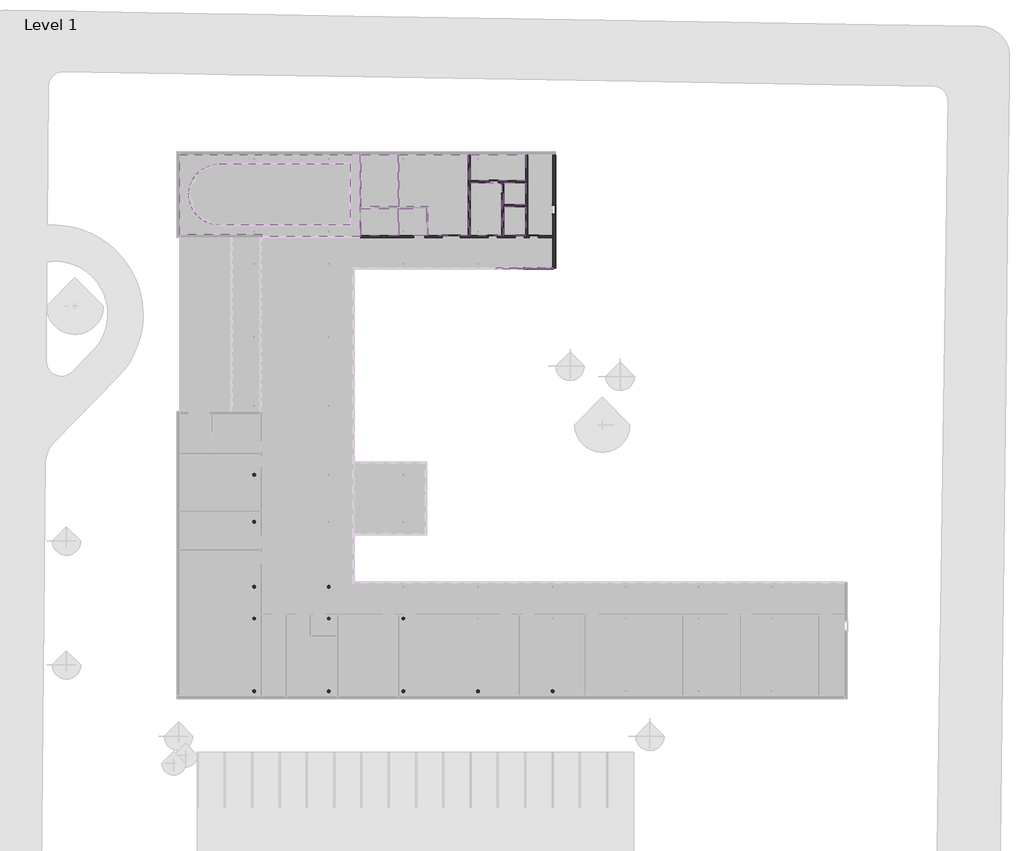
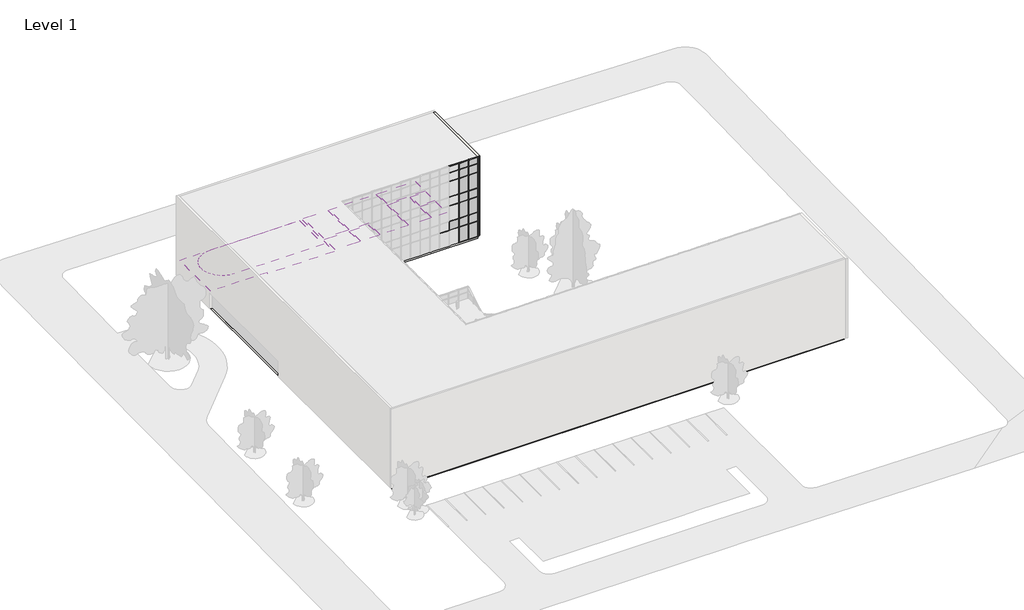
# One storey, part 17 of 18: 46 members, 15 plates, 12 columns, 10 coverings, 7 doors, 7 walls, 1 slab.
"""IFC4 building model written with IfcOpenShell, lengths in millimetres."""

from ifc_helpers import new_model, si_unit, point, frame, frame_2d, origin, origin_with_axes, place, context, project, spatial, polyline, circle_curve, trimmed, segment, composite_curve, outline, extrude, faceted_brep, transform, mapped, element, save
from components import m_concrete_round_column_300mm_df790aaa, door_0915mm_x_2134mm_2aa27b83, door_0915mm_x_2134mm_3fa07aa3, door_0915mm_x_2134mm_b19b82af, door_2_x_0915mm_x_2134mm_c74f849d, quad_corner_mullion_quad_mullion_1_893af7fe, quad_corner_mullion_quad_mullion_1_37ac55ff, quad_corner_mullion_quad_mullion_1_d5379b67, rectangular_mullion_50mm_x_150mm_5a36e067, rectangular_mullion_50mm_x_150mm_73e7bd4c, rectangular_mullion_50mm_x_150mm_4d4922e7, rectangular_mullion_50mm_x_150mm_da00b109, rectangular_mullion_50mm_x_150mm_bbc1c4ea, rectangular_mullion_50mm_x_150mm_36202a7c, rectangular_mullion_50mm_x_150mm_84717ec5, system_panel_glazed_6032f2be, system_panel_glazed_0db3b356, system_panel_glazed_cd6fe77c, system_panel_glazed_231014a1, system_panel_solid_c5c66014, system_panel_solid_87c6c2f1, system_panel_solid_b23a9ee6, system_panel_solid_e0f9033a

model = new_model("IFC4")

# Units and contexts
model_context = context("Model", 3, world=origin())
ifc_project = project(units=[si_unit("LENGTHUNIT", "METRE", prefix="MILLI")], contexts=[model_context])

# Site, building, storey
site = spatial("IfcSite", under=ifc_project)
building = spatial("IfcBuilding", under=site)
storey = spatial("IfcBuildingStorey", under=building, Name="Level 1", Elevation=0.0)

# Columns
placement = place(None, origin())
m_concrete_round_column_300mm_shape = m_concrete_round_column_300mm_df790aaa(model_context)
element("IfcColumn", 1, ObjectType="M_Concrete-Round-Column : 300mm", at=placement, inside=storey, context=model_context, shape_type="MappedRepresentation", body=[
    mapped(m_concrete_round_column_300mm_shape, transform((-2539.0909489, -1309.4607941, 0.0), x_axis=(-1.0, 0.0, 0.0), y_axis=(0.0, -1.0, 0.0), z_axis=(0.0, 0.0, 1.0))),
])
element("IfcColumn", 2, ObjectType="M_Concrete-Round-Column : 300mm", at=placement, inside=storey, context=model_context, shape_type="MappedRepresentation", body=[
    mapped(m_concrete_round_column_300mm_shape, transform((-2539.0909489, -6063.8611817, 0.0), x_axis=(-1.0, 0.0, 0.0), y_axis=(0.0, -1.0, 0.0), z_axis=(0.0, 0.0, 1.0))),
])
element("IfcColumn", 3, ObjectType="M_Concrete-Round-Column : 300mm", at=placement, inside=storey, context=model_context, shape_type="MappedRepresentation", body=[
    mapped(m_concrete_round_column_300mm_shape, transform((-2539.0909489, -15754.7006057, 0.0), x_axis=(-1.0, 0.0, 0.0), y_axis=(0.0, -1.0, 0.0), z_axis=(0.0, 0.0, 1.0))),
])
element("IfcColumn", 4, ObjectType="M_Concrete-Round-Column : 300mm", at=placement, inside=storey, context=model_context, shape_type="MappedRepresentation", body=[
    mapped(m_concrete_round_column_300mm_shape, transform((-2539.0909489, -12582.3615692, 0.0), x_axis=(-1.0, 0.0, 0.0), y_axis=(0.0, -1.0, 0.0), z_axis=(0.0, 0.0, 1.0))),
])
element("IfcColumn", 5, ObjectType="M_Concrete-Round-Column : 300mm", at=placement, inside=storey, context=model_context, shape_type="MappedRepresentation", body=[
    mapped(m_concrete_round_column_300mm_shape, transform((-2539.0909489, -23060.7006057, 0.0), x_axis=(-1.0, 0.0, 0.0), y_axis=(0.0, -1.0, 0.0), z_axis=(0.0, 0.0, 1.0))),
])
element("IfcColumn", 6, ObjectType="M_Concrete-Round-Column : 300mm", at=placement, inside=storey, context=model_context, shape_type="MappedRepresentation", body=[
    mapped(m_concrete_round_column_300mm_shape, transform((4948.6567657, -15754.7006057, 0.0), x_axis=(-1.0, 0.0, 0.0), y_axis=(0.0, -1.0, 0.0), z_axis=(0.0, 0.0, 1.0))),
])
element("IfcColumn", 7, ObjectType="M_Concrete-Round-Column : 300mm", at=placement, inside=storey, context=model_context, shape_type="MappedRepresentation", body=[
    mapped(m_concrete_round_column_300mm_shape, transform((4948.6567657, -12582.3615692, 0.0), x_axis=(-1.0, 0.0, 0.0), y_axis=(0.0, -1.0, 0.0), z_axis=(0.0, 0.0, 1.0))),
])
element("IfcColumn", 8, ObjectType="M_Concrete-Round-Column : 300mm", at=placement, inside=storey, context=model_context, shape_type="MappedRepresentation", body=[
    mapped(m_concrete_round_column_300mm_shape, transform((4948.6567657, -23060.7006057, 0.0), x_axis=(-1.0, 0.0, 0.0), y_axis=(0.0, -1.0, 0.0), z_axis=(0.0, 0.0, 1.0))),
])
element("IfcColumn", 9, ObjectType="M_Concrete-Round-Column : 300mm", at=placement, inside=storey, context=model_context, shape_type="MappedRepresentation", body=[
    mapped(m_concrete_round_column_300mm_shape, transform((12436.4044804, -15754.7006057, 0.0), x_axis=(-1.0, 0.0, 0.0), y_axis=(0.0, -1.0, 0.0), z_axis=(0.0, 0.0, 1.0))),
])
element("IfcColumn", 10, ObjectType="M_Concrete-Round-Column : 300mm", at=placement, inside=storey, context=model_context, shape_type="MappedRepresentation", body=[
    mapped(m_concrete_round_column_300mm_shape, transform((12436.4044804, -23060.7006057, 0.0), x_axis=(-1.0, 0.0, 0.0), y_axis=(0.0, -1.0, 0.0), z_axis=(0.0, 0.0, 1.0))),
])
element("IfcColumn", 11, ObjectType="M_Concrete-Round-Column : 300mm", at=placement, inside=storey, context=model_context, shape_type="MappedRepresentation", body=[
    mapped(m_concrete_round_column_300mm_shape, transform((19924.152195, -23060.7006057, 0.0), x_axis=(-1.0, 0.0, 0.0), y_axis=(0.0, -1.0, 0.0), z_axis=(0.0, 0.0, 1.0))),
])
element("IfcColumn", 12, ObjectType="M_Concrete-Round-Column : 300mm", at=placement, inside=storey, context=model_context, shape_type="MappedRepresentation", body=[
    mapped(m_concrete_round_column_300mm_shape, transform((27411.8999097, -23060.7006057, 0.0), x_axis=(-1.0, 0.0, 0.0), y_axis=(0.0, -1.0, 0.0), z_axis=(0.0, 0.0, 1.0))),
])

# Coverings
element("IfcCovering", 13, ObjectType="600 x 1200mm grid", at=placement, inside=storey, context=model_context, shape_type="SweptSolid", body=[
    extrude(outline(polyline([(8231.5010724, 30818.5799804), (11847.5010724, 30818.5799804), (11847.5010724, 25612.5799804), (8231.5010724, 25612.5799804), (8231.5010724, 30818.5799804)])), frame((0.0, 0.0, 2600.0), z_axis=(0.0, 0.0, 1.0), x_axis=(1.0, 0.0, 0.0)), (0.0, 0.0, 1.0), 52.0),
])
element("IfcCovering", 14, ObjectType="600 x 1200mm grid", at=placement, inside=storey, context=model_context, shape_type="SweptSolid", body=[
    extrude(outline(polyline([(11847.5010724, 25428.5799804), (11847.5010724, 22704.5799804), (8231.5010724, 22704.5799804), (8231.5010724, 25428.5799804), (11847.5010724, 25428.5799804)])), frame((0.0, 0.0, 2600.0), z_axis=(0.0, 0.0, 1.0), x_axis=(1.0, 0.0, 0.0)), (0.0, 0.0, 1.0), 52.0),
])
element("IfcCovering", 15, ObjectType="600 x 1200mm grid", at=placement, inside=storey, context=model_context, shape_type="SweptSolid", body=[
    extrude(outline(polyline([(14731.5010724, 25428.5799804), (14731.5010724, 22704.5799804), (12031.5010724, 22704.5799804), (12031.5010724, 25428.5799804), (14731.5010724, 25428.5799804)])), frame((0.0, 0.0, 2600.0), z_axis=(0.0, 0.0, 1.0), x_axis=(1.0, 0.0, 0.0)), (0.0, 0.0, 1.0), 52.0),
])
element("IfcCovering", 16, ObjectType="600 x 1200mm grid", at=placement, inside=storey, context=model_context, shape_type="SweptSolid", body=[
    extrude(outline(polyline([(24721.8999097, 22704.5799804), (22490.8999097, 22704.5799804), (22490.8999097, 25612.5799804), (24721.8999097, 25612.5799804), (24721.8999097, 22704.5799804)])), frame((0.0, 0.0, 2600.0), z_axis=(0.0, 0.0, 1.0), x_axis=(1.0, 0.0, 0.0)), (0.0, 0.0, 1.0), 52.0),
])
element("IfcCovering", 17, ObjectType="600 x 600mm grid", at=placement, inside=storey, context=model_context, shape_type="SweptSolid", body=[
    extrude(outline(polyline([(12031.5010724, 30818.5799804), (18947.5010724, 30818.5799804), (18947.5010724, 22704.5799804), (14915.5010724, 22704.5799804), (14915.5010724, 25612.5799804), (12031.5010724, 25612.5799804), (12031.5010724, 30818.5799804)])), frame((0.0, 0.0, 2600.0), z_axis=(0.0, 0.0, 1.0), x_axis=(1.0, 0.0, 0.0)), (0.0, 0.0, 1.0), 52.0),
])
element("IfcCovering", 18, ObjectType="600 x 600mm grid", at=placement, inside=storey, context=model_context, shape_type="SweptSolid", body=[
    extrude(outline(polyline([(22306.8999097, 22704.5799804), (19131.5010724, 22704.5799804), (19131.5010724, 28036.5799804), (22306.8999097, 28036.5799804), (22306.8999097, 22704.5799804)])), frame((0.0, 0.0, 2600.0), z_axis=(0.0, 0.0, 1.0), x_axis=(1.0, 0.0, 0.0)), (0.0, 0.0, 1.0), 52.0),
])
element("IfcCovering", 19, ObjectType="600 x 600mm grid", at=placement, inside=storey, context=model_context, shape_type="SweptSolid", body=[
    extrude(outline(polyline([(24721.8999097, 28036.5799804), (24721.8999097, 25796.5799804), (22490.8999097, 25796.5799804), (22490.8999097, 28036.5799804), (24721.8999097, 28036.5799804)])), frame((0.0, 0.0, 2600.0), z_axis=(0.0, 0.0, 1.0), x_axis=(1.0, 0.0, 0.0)), (0.0, 0.0, 1.0), 52.0),
])
element("IfcCovering", 20, ObjectType="600 x 600mm grid", at=placement, inside=storey, context=model_context, shape_type="SweptSolid", body=[
    extrude(outline(composite_curve([segment(polyline([(-6028.8386635, 29898.5799804), (7127.5010724, 29898.5799804), (7127.5010724, 23742.5799804), (-6028.8386635, 23742.5799804)]), True, "CONTINUOUS"), segment(trimmed(circle_curve(frame_2d((-6028.8386635, 26820.5799804)), 3078.0), [point((-6028.8386635, 23742.5799804))], [point((-6028.8386635, 29898.5799804))], False, "CARTESIAN"), True, "CONTINUOUS")], self_intersect=False)), frame((0.0, 0.0, 3200.0), z_axis=(0.0, 0.0, 1.0), x_axis=(1.0, 0.0, 0.0)), (0.0, 0.0, 1.0), 52.0),
])
element("IfcCovering", 21, ObjectType="GWB on Mtl Stud", at=placement, inside=storey, context=model_context, shape_type="SweptSolid", body=[
    extrude(outline(polyline([(19131.5010724, 30818.5799804), (24721.8999097, 30818.5799804), (24721.8999097, 28220.5799804), (19131.5010724, 28220.5799804), (19131.5010724, 30818.5799804)])), frame((0.0, 0.0, 2600.0), z_axis=(0.0, 0.0, 1.0), x_axis=(1.0, 0.0, 0.0)), (0.0, 0.0, 1.0), 57.0),
])
element("IfcCovering", 22, ObjectType="GWB on Mtl Stud", at=placement, inside=storey, context=model_context, shape_type="SweptSolid", body=[
    extrude(outline(polyline([(-10026.8386635, 22822.5799804), (-10026.8386635, 30818.5799804), (8047.5010724, 30818.5799804), (8047.5010724, 22595.5799804), (-1728.8386635, 22595.5799804), (-1728.8386635, 22822.5799804), (-10026.8386635, 22822.5799804)]), holes=[composite_curve([segment(trimmed(circle_curve(frame_2d((-6028.8386635, 26820.5799804)), 2778.0), [point((-6028.8386635, 29598.5799804))], [point((-6028.8386635, 24042.5799804))], True, "CARTESIAN"), True, "CONTINUOUS"), segment(polyline([(-6028.8386635, 24042.5799804), (6827.5010724, 24042.5799804), (6827.5010724, 29598.5799804), (-6028.8386635, 29598.5799804)]), True, "CONTINUOUS")], self_intersect=False)]), frame((0.0, 0.0, 2440.0), z_axis=(0.0, 0.0, 1.0), x_axis=(1.0, 0.0, 0.0)), (0.0, 0.0, 1.0), 57.0),
])

# Doors
door_0915mm_x_2134mm_shape = door_0915mm_x_2134mm_2aa27b83(model_context)
element("IfcDoor", 23, ObjectType="m-doors-hm-f1-a : 0915mm x 2134mm", at=placement, inside=storey, context=model_context, shape_type="MappedRepresentation", body=[
    mapped(door_0915mm_x_2134mm_shape, transform((22573.8999097, 27428.5799804, 0.0), x_axis=(0.0, -1.0, 0.0), y_axis=(1.0, 0.0, 0.0), z_axis=(0.0, 0.0, 1.0))),
])
element("IfcDoor", 24, ObjectType="m-doors-hm-f1-a : 0915mm x 2134mm", at=placement, inside=storey, context=model_context, shape_type="MappedRepresentation", body=[
    mapped(door_0915mm_x_2134mm_shape, transform((21498.8999097, 28303.5799804, 0.0), x_axis=(1.0, 0.0, 0.0), y_axis=(0.0, 1.0, 0.0), z_axis=(0.0, 0.0, 1.0))),
])
element("IfcDoor", 25, ObjectType="m-doors-hm-f1-a : 0915mm x 2134mm", at=placement, inside=storey, context=model_context, shape_type="MappedRepresentation", body=[
    mapped(door_0915mm_x_2134mm_shape, transform((25516.8999097, 22787.5799804, 0.0), x_axis=(1.0, 0.0, 0.0), y_axis=(0.0, 1.0, 0.0), z_axis=(0.0, 0.0, 1.0))),
])
door_0915mm_x_2134mm_2_shape = door_0915mm_x_2134mm_3fa07aa3(model_context)
element("IfcDoor", 26, ObjectType="m-doors-hm-f1-a : 0915mm x 2134mm", at=placement, inside=storey, context=model_context, shape_type="MappedRepresentation", body=[
    mapped(door_0915mm_x_2134mm_2_shape, transform((21398.8999097, 22787.5799804, 0.0), x_axis=(-1.0, 0.0, 0.0), y_axis=(0.0, -1.0, 0.0), z_axis=(0.0, 0.0, 1.0))),
])
element("IfcDoor", 27, ObjectType="m-doors-hm-f1-a : 0915mm x 2134mm", at=placement, inside=storey, context=model_context, shape_type="MappedRepresentation", body=[
    mapped(door_0915mm_x_2134mm_2_shape, transform((24106.8999097, 22787.5799804, 0.0), x_axis=(-1.0, 0.0, 0.0), y_axis=(0.0, -1.0, 0.0), z_axis=(0.0, 0.0, 1.0))),
])
door_0915mm_x_2134mm_3_shape = door_0915mm_x_2134mm_b19b82af(model_context)
element("IfcDoor", 28, ObjectType="m-doors-hm-f1-a : 0915mm x 2134mm", at=placement, inside=storey, context=model_context, shape_type="MappedRepresentation", body=[
    mapped(door_0915mm_x_2134mm_3_shape, transform((27737.8999097, 25312.5799804, 0.0), x_axis=(0.0, -1.0, 0.0), y_axis=(1.0, 0.0, 0.0), z_axis=(0.0, 0.0, 1.0))),
])
door_2_x_0915mm_x_2134mm_shape = door_2_x_0915mm_x_2134mm_c74f849d(model_context)
element("IfcDoor", 29, ObjectType="m-doors-hm-f2-a : 2 x 0915mm x 2134mm", at=placement, inside=storey, context=model_context, shape_type="MappedRepresentation", body=[
    mapped(door_2_x_0915mm_x_2134mm_shape, transform((17239.5010724, 22787.5799804, 0.0), x_axis=(1.0, 0.0, 0.0), y_axis=(0.0, 1.0, 0.0), z_axis=(0.0, 0.0, 1.0))),
])

# Members
quad_corner_mullion_quad_mullion_1_shape = quad_corner_mullion_quad_mullion_1_893af7fe(model_context)
element("IfcMember", 30, ObjectType="Quad Corner Mullion : Quad Mullion 1", at=placement, inside=storey, context=model_context, shape_type="MappedRepresentation", body=[
    mapped(quad_corner_mullion_quad_mullion_1_shape, transform((27411.8999097, 19414.8392059, 11400.0), x_axis=(1.0, 0.0, 0.0), y_axis=(0.0, -1.0, 0.0), z_axis=(0.0, 0.0, -1.0))),
])
quad_corner_mullion_quad_mullion_1_2_shape = quad_corner_mullion_quad_mullion_1_37ac55ff(model_context)
element("IfcMember", 31, ObjectType="Quad Corner Mullion : Quad Mullion 1", at=placement, inside=storey, context=model_context, shape_type="MappedRepresentation", body=[
    mapped(quad_corner_mullion_quad_mullion_1_2_shape, transform((27411.8999097, 19414.8392059, 3800.0), x_axis=(1.0, 0.0, 0.0), y_axis=(0.0, -1.0, 0.0), z_axis=(0.0, 0.0, -1.0))),
])
element("IfcMember", 32, ObjectType="Quad Corner Mullion : Quad Mullion 1", at=placement, inside=storey, context=model_context, shape_type="MappedRepresentation", body=[
    mapped(quad_corner_mullion_quad_mullion_1_2_shape, transform((27411.8999097, 19414.8392059, 7600.0), x_axis=(1.0, 0.0, 0.0), y_axis=(0.0, -1.0, 0.0), z_axis=(0.0, 0.0, -1.0))),
])
quad_corner_mullion_quad_mullion_1_3_shape = quad_corner_mullion_quad_mullion_1_d5379b67(model_context)
element("IfcMember", 33, ObjectType="Quad Corner Mullion : Quad Mullion 1", at=placement, inside=storey, context=model_context, shape_type="MappedRepresentation", body=[
    mapped(quad_corner_mullion_quad_mullion_1_3_shape, transform((27411.8999097, 19414.8392059, 10040.0), x_axis=(1.0, 0.0, 0.0), y_axis=(0.0, -1.0, 0.0), z_axis=(0.0, 0.0, -1.0))),
])
element("IfcMember", 34, ObjectType="Quad Corner Mullion : Quad Mullion 1", at=placement, inside=storey, context=model_context, shape_type="MappedRepresentation", body=[
    mapped(quad_corner_mullion_quad_mullion_1_3_shape, transform((27411.8999097, 19414.8392059, 6240.0), x_axis=(1.0, 0.0, 0.0), y_axis=(0.0, -1.0, 0.0), z_axis=(0.0, 0.0, -1.0))),
])
element("IfcMember", 35, ObjectType="Quad Corner Mullion : Quad Mullion 1", at=placement, inside=storey, context=model_context, shape_type="MappedRepresentation", body=[
    mapped(quad_corner_mullion_quad_mullion_1_3_shape, transform((27411.8999097, 19414.8392059, 2440.0), x_axis=(1.0, 0.0, 0.0), y_axis=(0.0, -1.0, 0.0), z_axis=(0.0, 0.0, -1.0))),
])
element("IfcMember", 36, ObjectType="Quad Corner Mullion : Quad Mullion 1", at=placement, inside=storey, context=model_context, shape_type="MappedRepresentation", body=[
    mapped(quad_corner_mullion_quad_mullion_1_2_shape, transform((27411.8999097, 19414.8392059, 0.0), x_axis=(1.0, 0.0, 0.0), y_axis=(0.0, -1.0, 0.0), z_axis=(0.0, 0.0, -1.0))),
])
rectangular_mullion_50mm_x_150mm_shape = rectangular_mullion_50mm_x_150mm_5a36e067(model_context)
element("IfcMember", 37, ObjectType="Rectangular Mullion : 50mm x 150mm", at=placement, inside=storey, context=model_context, shape_type="MappedRepresentation", body=[
    mapped(rectangular_mullion_50mm_x_150mm_shape, transform((24534.8429327, 19414.8392059, 12400.0), x_axis=(0.0, 0.0, 1.0), y_axis=(0.0, -1.0, 0.0), z_axis=(1.0, 0.0, 0.0))),
])
element("IfcMember", 38, ObjectType="Rectangular Mullion : 50mm x 150mm", at=placement, inside=storey, context=model_context, shape_type="MappedRepresentation", body=[
    mapped(rectangular_mullion_50mm_x_150mm_shape, transform((25960.871421, 19414.8392059, 12400.0), x_axis=(0.0, 0.0, 1.0), y_axis=(0.0, -1.0, 0.0), z_axis=(1.0, 0.0, 0.0))),
])
element("IfcMember", 39, ObjectType="Rectangular Mullion : 50mm x 150mm", at=placement, inside=storey, context=model_context, shape_type="MappedRepresentation", body=[
    mapped(rectangular_mullion_50mm_x_150mm_shape, transform((24584.8429327, 19414.8392059, 0.0), x_axis=(0.0, 0.0, -1.0), y_axis=(0.0, -1.0, 0.0), z_axis=(-1.0, 0.0, 0.0))),
])
rectangular_mullion_50mm_x_150mm_2_shape = rectangular_mullion_50mm_x_150mm_73e7bd4c(model_context)
element("IfcMember", 40, ObjectType="Rectangular Mullion : 50mm x 150mm", at=placement, inside=storey, context=model_context, shape_type="MappedRepresentation", body=[
    mapped(rectangular_mullion_50mm_x_150mm_2_shape, transform((24534.8429327, 19414.8392059, 3800.0), x_axis=(0.0, 0.0, 1.0), y_axis=(0.0, -1.0, 0.0), z_axis=(1.0, 0.0, 0.0))),
])
element("IfcMember", 41, ObjectType="Rectangular Mullion : 50mm x 150mm", at=placement, inside=storey, context=model_context, shape_type="MappedRepresentation", body=[
    mapped(rectangular_mullion_50mm_x_150mm_2_shape, transform((25960.871421, 19414.8392059, 3800.0), x_axis=(0.0, 0.0, 1.0), y_axis=(0.0, -1.0, 0.0), z_axis=(1.0, 0.0, 0.0))),
])
element("IfcMember", 42, ObjectType="Rectangular Mullion : 50mm x 150mm", at=placement, inside=storey, context=model_context, shape_type="MappedRepresentation", body=[
    mapped(rectangular_mullion_50mm_x_150mm_2_shape, transform((24534.8429327, 19414.8392059, 7600.0), x_axis=(0.0, 0.0, 1.0), y_axis=(0.0, -1.0, 0.0), z_axis=(1.0, 0.0, 0.0))),
])
element("IfcMember", 43, ObjectType="Rectangular Mullion : 50mm x 150mm", at=placement, inside=storey, context=model_context, shape_type="MappedRepresentation", body=[
    mapped(rectangular_mullion_50mm_x_150mm_2_shape, transform((25960.871421, 19414.8392059, 7600.0), x_axis=(0.0, 0.0, 1.0), y_axis=(0.0, -1.0, 0.0), z_axis=(1.0, 0.0, 0.0))),
])
element("IfcMember", 44, ObjectType="Rectangular Mullion : 50mm x 150mm", at=placement, inside=storey, context=model_context, shape_type="MappedRepresentation", body=[
    mapped(rectangular_mullion_50mm_x_150mm_2_shape, transform((24534.8429327, 19414.8392059, 11400.0), x_axis=(0.0, 0.0, 1.0), y_axis=(0.0, -1.0, 0.0), z_axis=(1.0, 0.0, 0.0))),
])
element("IfcMember", 45, ObjectType="Rectangular Mullion : 50mm x 150mm", at=placement, inside=storey, context=model_context, shape_type="MappedRepresentation", body=[
    mapped(rectangular_mullion_50mm_x_150mm_2_shape, transform((25960.871421, 19414.8392059, 11400.0), x_axis=(0.0, 0.0, 1.0), y_axis=(0.0, -1.0, 0.0), z_axis=(1.0, 0.0, 0.0))),
])
element("IfcMember", 46, ObjectType="Rectangular Mullion : 50mm x 150mm", at=placement, inside=storey, context=model_context, shape_type="MappedRepresentation", body=[
    mapped(rectangular_mullion_50mm_x_150mm_2_shape, transform((24534.8429327, 19414.8392059, 10040.0), x_axis=(0.0, 0.0, 1.0), y_axis=(0.0, -1.0, 0.0), z_axis=(1.0, 0.0, 0.0))),
])
element("IfcMember", 47, ObjectType="Rectangular Mullion : 50mm x 150mm", at=placement, inside=storey, context=model_context, shape_type="MappedRepresentation", body=[
    mapped(rectangular_mullion_50mm_x_150mm_2_shape, transform((25960.871421, 19414.8392059, 10040.0), x_axis=(0.0, 0.0, 1.0), y_axis=(0.0, -1.0, 0.0), z_axis=(1.0, 0.0, 0.0))),
])
element("IfcMember", 48, ObjectType="Rectangular Mullion : 50mm x 150mm", at=placement, inside=storey, context=model_context, shape_type="MappedRepresentation", body=[
    mapped(rectangular_mullion_50mm_x_150mm_2_shape, transform((24534.8429327, 19414.8392059, 6240.0), x_axis=(0.0, 0.0, 1.0), y_axis=(0.0, -1.0, 0.0), z_axis=(1.0, 0.0, 0.0))),
])
element("IfcMember", 49, ObjectType="Rectangular Mullion : 50mm x 150mm", at=placement, inside=storey, context=model_context, shape_type="MappedRepresentation", body=[
    mapped(rectangular_mullion_50mm_x_150mm_2_shape, transform((25960.871421, 19414.8392059, 6240.0), x_axis=(0.0, 0.0, 1.0), y_axis=(0.0, -1.0, 0.0), z_axis=(1.0, 0.0, 0.0))),
])
element("IfcMember", 50, ObjectType="Rectangular Mullion : 50mm x 150mm", at=placement, inside=storey, context=model_context, shape_type="MappedRepresentation", body=[
    mapped(rectangular_mullion_50mm_x_150mm_2_shape, transform((23108.8144443, 19414.8392059, 2440.0), x_axis=(0.0, 0.0, 1.0), y_axis=(0.0, -1.0, 0.0), z_axis=(1.0, 0.0, 0.0))),
])
element("IfcMember", 51, ObjectType="Rectangular Mullion : 50mm x 150mm", at=placement, inside=storey, context=model_context, shape_type="MappedRepresentation", body=[
    mapped(rectangular_mullion_50mm_x_150mm_2_shape, transform((24534.8429327, 19414.8392059, 2440.0), x_axis=(0.0, 0.0, 1.0), y_axis=(0.0, -1.0, 0.0), z_axis=(1.0, 0.0, 0.0))),
])
element("IfcMember", 52, ObjectType="Rectangular Mullion : 50mm x 150mm", at=placement, inside=storey, context=model_context, shape_type="MappedRepresentation", body=[
    mapped(rectangular_mullion_50mm_x_150mm_2_shape, transform((25960.871421, 19414.8392059, 2440.0), x_axis=(0.0, 0.0, 1.0), y_axis=(0.0, -1.0, 0.0), z_axis=(1.0, 0.0, 0.0))),
])
rectangular_mullion_50mm_x_150mm_3_shape = rectangular_mullion_50mm_x_150mm_4d4922e7(model_context)
element("IfcMember", 53, ObjectType="Rectangular Mullion : 50mm x 150mm", at=placement, inside=storey, context=model_context, shape_type="MappedRepresentation", body=[
    mapped(rectangular_mullion_50mm_x_150mm_3_shape, transform((27336.8999097, 19414.8392059, 12400.0), x_axis=(0.0, 0.0, 1.0), y_axis=(0.0, -1.0, 0.0), z_axis=(1.0, 0.0, 0.0))),
])
element("IfcMember", 54, ObjectType="Rectangular Mullion : 50mm x 150mm", at=placement, inside=storey, context=model_context, shape_type="MappedRepresentation", body=[
    mapped(rectangular_mullion_50mm_x_150mm_3_shape, transform((26010.871421, 19414.8392059, 0.0), x_axis=(0.0, 0.0, -1.0), y_axis=(0.0, -1.0, 0.0), z_axis=(-1.0, 0.0, 0.0))),
])
rectangular_mullion_50mm_x_150mm_4_shape = rectangular_mullion_50mm_x_150mm_da00b109(model_context)
element("IfcMember", 55, ObjectType="Rectangular Mullion : 50mm x 150mm", at=placement, inside=storey, context=model_context, shape_type="MappedRepresentation", body=[
    mapped(rectangular_mullion_50mm_x_150mm_4_shape, transform((27336.8999097, 19414.8392059, 3800.0), x_axis=(0.0, 0.0, 1.0), y_axis=(0.0, -1.0, 0.0), z_axis=(1.0, 0.0, 0.0))),
])
element("IfcMember", 56, ObjectType="Rectangular Mullion : 50mm x 150mm", at=placement, inside=storey, context=model_context, shape_type="MappedRepresentation", body=[
    mapped(rectangular_mullion_50mm_x_150mm_4_shape, transform((27336.8999097, 19414.8392059, 7600.0), x_axis=(0.0, 0.0, 1.0), y_axis=(0.0, -1.0, 0.0), z_axis=(1.0, 0.0, 0.0))),
])
element("IfcMember", 57, ObjectType="Rectangular Mullion : 50mm x 150mm", at=placement, inside=storey, context=model_context, shape_type="MappedRepresentation", body=[
    mapped(rectangular_mullion_50mm_x_150mm_4_shape, transform((27336.8999097, 19414.8392059, 11400.0), x_axis=(0.0, 0.0, 1.0), y_axis=(0.0, -1.0, 0.0), z_axis=(1.0, 0.0, 0.0))),
])
element("IfcMember", 58, ObjectType="Rectangular Mullion : 50mm x 150mm", at=placement, inside=storey, context=model_context, shape_type="MappedRepresentation", body=[
    mapped(rectangular_mullion_50mm_x_150mm_4_shape, transform((27336.8999097, 19414.8392059, 10040.0), x_axis=(0.0, 0.0, 1.0), y_axis=(0.0, -1.0, 0.0), z_axis=(1.0, 0.0, 0.0))),
])
element("IfcMember", 59, ObjectType="Rectangular Mullion : 50mm x 150mm", at=placement, inside=storey, context=model_context, shape_type="MappedRepresentation", body=[
    mapped(rectangular_mullion_50mm_x_150mm_4_shape, transform((27336.8999097, 19414.8392059, 6240.0), x_axis=(0.0, 0.0, 1.0), y_axis=(0.0, -1.0, 0.0), z_axis=(1.0, 0.0, 0.0))),
])
element("IfcMember", 60, ObjectType="Rectangular Mullion : 50mm x 150mm", at=placement, inside=storey, context=model_context, shape_type="MappedRepresentation", body=[
    mapped(rectangular_mullion_50mm_x_150mm_4_shape, transform((27336.8999097, 19414.8392059, 2440.0), x_axis=(0.0, 0.0, 1.0), y_axis=(0.0, -1.0, 0.0), z_axis=(1.0, 0.0, 0.0))),
])
rectangular_mullion_50mm_x_150mm_5_shape = rectangular_mullion_50mm_x_150mm_bbc1c4ea(model_context)
element("IfcMember", 61, ObjectType="Rectangular Mullion : 50mm x 150mm", at=placement, inside=storey, context=model_context, shape_type="MappedRepresentation", body=[
    mapped(rectangular_mullion_50mm_x_150mm_5_shape, transform((24559.8429327, 19414.8392059, 11400.0), x_axis=(1.0, 0.0, 0.0), y_axis=(0.0, -1.0, 0.0), z_axis=(0.0, 0.0, -1.0))),
])
element("IfcMember", 62, ObjectType="Rectangular Mullion : 50mm x 150mm", at=placement, inside=storey, context=model_context, shape_type="MappedRepresentation", body=[
    mapped(rectangular_mullion_50mm_x_150mm_5_shape, transform((25985.871421, 19414.8392059, 11400.0), x_axis=(1.0, 0.0, 0.0), y_axis=(0.0, -1.0, 0.0), z_axis=(0.0, 0.0, -1.0))),
])
rectangular_mullion_50mm_x_150mm_6_shape = rectangular_mullion_50mm_x_150mm_36202a7c(model_context)
element("IfcMember", 63, ObjectType="Rectangular Mullion : 50mm x 150mm", at=placement, inside=storey, context=model_context, shape_type="MappedRepresentation", body=[
    mapped(rectangular_mullion_50mm_x_150mm_6_shape, transform((24559.8429327, 19414.8392059, 0.0), x_axis=(1.0, 0.0, 0.0), y_axis=(0.0, -1.0, 0.0), z_axis=(0.0, 0.0, -1.0))),
])
element("IfcMember", 64, ObjectType="Rectangular Mullion : 50mm x 150mm", at=placement, inside=storey, context=model_context, shape_type="MappedRepresentation", body=[
    mapped(rectangular_mullion_50mm_x_150mm_6_shape, transform((25985.871421, 19414.8392059, 0.0), x_axis=(1.0, 0.0, 0.0), y_axis=(0.0, -1.0, 0.0), z_axis=(0.0, 0.0, -1.0))),
])
rectangular_mullion_50mm_x_150mm_7_shape = rectangular_mullion_50mm_x_150mm_84717ec5(model_context)
element("IfcMember", 65, ObjectType="Rectangular Mullion : 50mm x 150mm", at=placement, inside=storey, context=model_context, shape_type="MappedRepresentation", body=[
    mapped(rectangular_mullion_50mm_x_150mm_7_shape, transform((24559.8429327, 19414.8392059, 10040.0), x_axis=(1.0, 0.0, 0.0), y_axis=(0.0, -1.0, 0.0), z_axis=(0.0, 0.0, -1.0))),
])
element("IfcMember", 66, ObjectType="Rectangular Mullion : 50mm x 150mm", at=placement, inside=storey, context=model_context, shape_type="MappedRepresentation", body=[
    mapped(rectangular_mullion_50mm_x_150mm_7_shape, transform((25985.871421, 19414.8392059, 10040.0), x_axis=(1.0, 0.0, 0.0), y_axis=(0.0, -1.0, 0.0), z_axis=(0.0, 0.0, -1.0))),
])
element("IfcMember", 67, ObjectType="Rectangular Mullion : 50mm x 150mm", at=placement, inside=storey, context=model_context, shape_type="MappedRepresentation", body=[
    mapped(rectangular_mullion_50mm_x_150mm_7_shape, transform((24559.8429327, 19414.8392059, 6240.0), x_axis=(1.0, 0.0, 0.0), y_axis=(0.0, -1.0, 0.0), z_axis=(0.0, 0.0, -1.0))),
])
element("IfcMember", 68, ObjectType="Rectangular Mullion : 50mm x 150mm", at=placement, inside=storey, context=model_context, shape_type="MappedRepresentation", body=[
    mapped(rectangular_mullion_50mm_x_150mm_7_shape, transform((25985.871421, 19414.8392059, 6240.0), x_axis=(1.0, 0.0, 0.0), y_axis=(0.0, -1.0, 0.0), z_axis=(0.0, 0.0, -1.0))),
])
element("IfcMember", 69, ObjectType="Rectangular Mullion : 50mm x 150mm", at=placement, inside=storey, context=model_context, shape_type="MappedRepresentation", body=[
    mapped(rectangular_mullion_50mm_x_150mm_7_shape, transform((23133.8144443, 19414.8392059, 2440.0), x_axis=(1.0, 0.0, 0.0), y_axis=(0.0, -1.0, 0.0), z_axis=(0.0, 0.0, -1.0))),
])
element("IfcMember", 70, ObjectType="Rectangular Mullion : 50mm x 150mm", at=placement, inside=storey, context=model_context, shape_type="MappedRepresentation", body=[
    mapped(rectangular_mullion_50mm_x_150mm_7_shape, transform((24559.8429327, 19414.8392059, 2440.0), x_axis=(1.0, 0.0, 0.0), y_axis=(0.0, -1.0, 0.0), z_axis=(0.0, 0.0, -1.0))),
])
element("IfcMember", 71, ObjectType="Rectangular Mullion : 50mm x 150mm", at=placement, inside=storey, context=model_context, shape_type="MappedRepresentation", body=[
    mapped(rectangular_mullion_50mm_x_150mm_7_shape, transform((25985.871421, 19414.8392059, 2440.0), x_axis=(1.0, 0.0, 0.0), y_axis=(0.0, -1.0, 0.0), z_axis=(0.0, 0.0, -1.0))),
])
element("IfcMember", 72, ObjectType="Rectangular Mullion : 50mm x 150mm", at=placement, inside=storey, context=model_context, shape_type="MappedRepresentation", body=[
    mapped(rectangular_mullion_50mm_x_150mm_6_shape, transform((24559.8429327, 19414.8392059, 3800.0), x_axis=(1.0, 0.0, 0.0), y_axis=(0.0, -1.0, 0.0), z_axis=(0.0, 0.0, -1.0))),
])
element("IfcMember", 73, ObjectType="Rectangular Mullion : 50mm x 150mm", at=placement, inside=storey, context=model_context, shape_type="MappedRepresentation", body=[
    mapped(rectangular_mullion_50mm_x_150mm_6_shape, transform((25985.871421, 19414.8392059, 3800.0), x_axis=(1.0, 0.0, 0.0), y_axis=(0.0, -1.0, 0.0), z_axis=(0.0, 0.0, -1.0))),
])
element("IfcMember", 74, ObjectType="Rectangular Mullion : 50mm x 150mm", at=placement, inside=storey, context=model_context, shape_type="MappedRepresentation", body=[
    mapped(rectangular_mullion_50mm_x_150mm_6_shape, transform((24559.8429327, 19414.8392059, 7600.0), x_axis=(1.0, 0.0, 0.0), y_axis=(0.0, -1.0, 0.0), z_axis=(0.0, 0.0, -1.0))),
])
element("IfcMember", 75, ObjectType="Rectangular Mullion : 50mm x 150mm", at=placement, inside=storey, context=model_context, shape_type="MappedRepresentation", body=[
    mapped(rectangular_mullion_50mm_x_150mm_6_shape, transform((25985.871421, 19414.8392059, 7600.0), x_axis=(1.0, 0.0, 0.0), y_axis=(0.0, -1.0, 0.0), z_axis=(0.0, 0.0, -1.0))),
])

# Plates
system_panel_glazed_shape = system_panel_glazed_6032f2be(model_context)
element("IfcPlate", 76, ObjectType="System Panel : Glazed", at=placement, inside=storey, context=model_context, shape_type="MappedRepresentation", body=[
    mapped(system_panel_glazed_shape, transform((25272.8571768, 19414.8392059, 3825.0), x_axis=(1.0, 0.0, 0.0), y_axis=(0.0, 1.0, 0.0), z_axis=(0.0, 0.0, 1.0))),
])
element("IfcPlate", 77, ObjectType="System Panel : Glazed", at=placement, inside=storey, context=model_context, shape_type="MappedRepresentation", body=[
    mapped(system_panel_glazed_shape, transform((25272.8571768, 19414.8392059, 7625.0), x_axis=(1.0, 0.0, 0.0), y_axis=(0.0, 1.0, 0.0), z_axis=(0.0, 0.0, 1.0))),
])
system_panel_glazed_2_shape = system_panel_glazed_0db3b356(model_context)
element("IfcPlate", 78, ObjectType="System Panel : Glazed", at=placement, inside=storey, context=model_context, shape_type="MappedRepresentation", body=[
    mapped(system_panel_glazed_2_shape, transform((26673.8856653, 19414.8392059, 3825.0), x_axis=(1.0, 0.0, 0.0), y_axis=(0.0, 1.0, 0.0), z_axis=(0.0, 0.0, 1.0))),
])
element("IfcPlate", 79, ObjectType="System Panel : Glazed", at=placement, inside=storey, context=model_context, shape_type="MappedRepresentation", body=[
    mapped(system_panel_glazed_2_shape, transform((26673.8856653, 19414.8392059, 7625.0), x_axis=(1.0, 0.0, 0.0), y_axis=(0.0, 1.0, 0.0), z_axis=(0.0, 0.0, 1.0))),
])
system_panel_glazed_3_shape = system_panel_glazed_cd6fe77c(model_context)
element("IfcPlate", 80, ObjectType="System Panel : Glazed", at=placement, inside=storey, context=model_context, shape_type="MappedRepresentation", body=[
    mapped(system_panel_glazed_3_shape, transform((25272.8571768, 19414.8392059, 50.0), x_axis=(1.0, 0.0, 0.0), y_axis=(0.0, 1.0, 0.0), z_axis=(0.0, 0.0, 1.0))),
])
system_panel_glazed_4_shape = system_panel_glazed_231014a1(model_context)
element("IfcPlate", 81, ObjectType="System Panel : Glazed", at=placement, inside=storey, context=model_context, shape_type="MappedRepresentation", body=[
    mapped(system_panel_glazed_4_shape, transform((26673.8856653, 19414.8392059, 50.0), x_axis=(1.0, 0.0, 0.0), y_axis=(0.0, 1.0, 0.0), z_axis=(0.0, 0.0, 1.0))),
])
system_panel_solid_shape = system_panel_solid_c5c66014(model_context)
element("IfcPlate", 82, ObjectType="System Panel : Solid", at=placement, inside=storey, context=model_context, shape_type="MappedRepresentation", body=[
    mapped(system_panel_solid_shape, transform((26673.8856653, 19414.8392059, 11425.0), x_axis=(1.0, 0.0, 0.0), y_axis=(0.0, 1.0, 0.0), z_axis=(0.0, 0.0, 1.0))),
])
system_panel_solid_2_shape = system_panel_solid_87c6c2f1(model_context)
element("IfcPlate", 83, ObjectType="System Panel : Solid", at=placement, inside=storey, context=model_context, shape_type="MappedRepresentation", body=[
    mapped(system_panel_solid_2_shape, transform((25272.8571768, 19414.8392059, 11425.0), x_axis=(1.0, 0.0, 0.0), y_axis=(0.0, 1.0, 0.0), z_axis=(0.0, 0.0, 1.0))),
])
system_panel_solid_3_shape = system_panel_solid_b23a9ee6(model_context)
element("IfcPlate", 84, ObjectType="System Panel : Solid", at=placement, inside=storey, context=model_context, shape_type="MappedRepresentation", body=[
    mapped(system_panel_solid_3_shape, transform((26673.8856653, 19414.8392059, 10065.0), x_axis=(1.0, 0.0, 0.0), y_axis=(0.0, 1.0, 0.0), z_axis=(0.0, 0.0, 1.0))),
])
element("IfcPlate", 85, ObjectType="System Panel : Solid", at=placement, inside=storey, context=model_context, shape_type="MappedRepresentation", body=[
    mapped(system_panel_solid_3_shape, transform((26673.8856653, 19414.8392059, 6265.0), x_axis=(1.0, 0.0, 0.0), y_axis=(0.0, 1.0, 0.0), z_axis=(0.0, 0.0, 1.0))),
])
element("IfcPlate", 86, ObjectType="System Panel : Solid", at=placement, inside=storey, context=model_context, shape_type="MappedRepresentation", body=[
    mapped(system_panel_solid_3_shape, transform((26673.8856653, 19414.8392059, 2465.0), x_axis=(1.0, 0.0, 0.0), y_axis=(0.0, 1.0, 0.0), z_axis=(0.0, 0.0, 1.0))),
])
system_panel_solid_4_shape = system_panel_solid_e0f9033a(model_context)
element("IfcPlate", 87, ObjectType="System Panel : Solid", at=placement, inside=storey, context=model_context, shape_type="MappedRepresentation", body=[
    mapped(system_panel_solid_4_shape, transform((25272.8571768, 19414.8392059, 10065.0), x_axis=(1.0, 0.0, 0.0), y_axis=(0.0, 1.0, 0.0), z_axis=(0.0, 0.0, 1.0))),
])
element("IfcPlate", 88, ObjectType="System Panel : Solid", at=placement, inside=storey, context=model_context, shape_type="MappedRepresentation", body=[
    mapped(system_panel_solid_4_shape, transform((25272.8571768, 19414.8392059, 6265.0), x_axis=(1.0, 0.0, 0.0), y_axis=(0.0, 1.0, 0.0), z_axis=(0.0, 0.0, 1.0))),
])
element("IfcPlate", 89, ObjectType="System Panel : Solid", at=placement, inside=storey, context=model_context, shape_type="MappedRepresentation", body=[
    mapped(system_panel_solid_4_shape, transform((23846.8286885, 19414.8392059, 2465.0), x_axis=(1.0, 0.0, 0.0), y_axis=(0.0, 1.0, 0.0), z_axis=(0.0, 0.0, 1.0))),
])
element("IfcPlate", 90, ObjectType="System Panel : Solid", at=placement, inside=storey, context=model_context, shape_type="MappedRepresentation", body=[
    mapped(system_panel_solid_4_shape, transform((25272.8571768, 19414.8392059, 2465.0), x_axis=(1.0, 0.0, 0.0), y_axis=(0.0, 1.0, 0.0), z_axis=(0.0, 0.0, 1.0))),
])

# Slab
element("IfcSlab", 91, ObjectType="Pad 1", at=placement, inside=storey, context=model_context, shape_type="SweptSolid", body=[
    extrude(outline(polyline([(27411.8999097, 30818.5799804), (27411.8999097, 19414.8392059), (7447.5010724, 19414.8392059), (7447.5010724, -89.4607941), (14709.0902051, -89.4607941), (14709.0902051, -7283.8611817), (7447.5010724, -7283.8611817), (7447.5010724, -12132.3615692), (56699.1173382, -12132.3615692), (56699.1173382, -23510.7006057), (-10026.8386635, -23510.7006057), (-10026.8386635, 30818.5799804), (27411.8999097, 30818.5799804)])), frame((0.0, 0.0, -304.8), z_axis=(0.0, 0.0, 1.0), x_axis=(1.0, 0.0, 0.0)), (0.0, 0.0, 1.0), 304.8),
])

# Walls
element("IfcWall", 92, ObjectType="P6 184mm - 1HR - ULC #W453", at=placement, inside=storey, context=model_context, shape_type="Brep", body=[
    faceted_brep([(8047.5010724, 22704.5799804, 3550.0), (8231.5010724, 22704.5799804, 3550.0), (11847.5010724, 22704.5799804, 3550.0), (12031.5010724, 22704.5799804, 3550.0), (14731.5010724, 22704.5799804, 3550.0), (14915.5010724, 22704.5799804, 3550.0), (18947.5010724, 22704.5799804, 3550.0), (19131.5010724, 22704.5799804, 3550.0), (22306.8999097, 22704.5799804, 3550.0), (22490.8999097, 22704.5799804, 3550.0), (24721.8999097, 22704.5799804, 3550.0), (24911.8999097, 22704.5799804, 3550.0), (27411.8999097, 22704.5799804, 3550.0), (27411.8999097, 22704.5799804, 0.0), (26024.3999097, 22704.5799804, 0.0), (26024.3999097, 22704.5799804, 2184.0), (25009.3999097, 22704.5799804, 2184.0), (25009.3999097, 22704.5799804, 0.0), (24911.8999097, 22704.5799804, 0.0), (24721.8999097, 22704.5799804, 0.0), (24614.3999097, 22704.5799804, 0.0), (24614.3999097, 22704.5799804, 2184.0), (23599.3999097, 22704.5799804, 2184.0), (23599.3999097, 22704.5799804, 0.0), (22490.8999097, 22704.5799804, 0.0), (22306.8999097, 22704.5799804, 0.0), (21906.3999097, 22704.5799804, 0.0), (21906.3999097, 22704.5799804, 2184.0), (20891.3999097, 22704.5799804, 2184.0), (20891.3999097, 22704.5799804, 0.0), (19131.5010724, 22704.5799804, 0.0), (18947.5010724, 22704.5799804, 0.0), (18204.5010724, 22704.5799804, 0.0), (18204.5010724, 22704.5799804, 2184.0), (16274.5010724, 22704.5799804, 2184.0), (16274.5010724, 22704.5799804, 0.0), (14915.5010724, 22704.5799804, 0.0), (14731.5010724, 22704.5799804, 0.0), (14531.0010724, 22704.5799804, 0.0), (14531.0010724, 22704.5799804, 2184.0), (13516.0010724, 22704.5799804, 2184.0), (13516.0010724, 22704.5799804, 0.0), (12031.5010724, 22704.5799804, 0.0), (11847.5010724, 22704.5799804, 0.0), (8231.5010724, 22704.5799804, 0.0), (8047.5010724, 22704.5799804, 0.0), (27411.8999097, 22520.5799804, 3550.0), (8047.5010724, 22520.5799804, 3550.0), (8047.5010724, 22520.5799804, 0.0), (13516.0010724, 22520.5799804, 0.0), (13516.0010724, 22520.5799804, 2184.0), (14531.0010724, 22520.5799804, 2184.0), (14531.0010724, 22520.5799804, 0.0), (16274.5010724, 22520.5799804, 0.0), (16274.5010724, 22520.5799804, 2184.0), (18204.5010724, 22520.5799804, 2184.0), (18204.5010724, 22520.5799804, 0.0), (20891.3999097, 22520.5799804, 0.0), (20891.3999097, 22520.5799804, 2184.0), (21906.3999097, 22520.5799804, 2184.0), (21906.3999097, 22520.5799804, 0.0), (23599.3999097, 22520.5799804, 0.0), (23599.3999097, 22520.5799804, 2184.0), (24614.3999097, 22520.5799804, 2184.0), (24614.3999097, 22520.5799804, 0.0), (25009.3999097, 22520.5799804, 0.0), (25009.3999097, 22520.5799804, 2184.0), (26024.3999097, 22520.5799804, 2184.0), (26024.3999097, 22520.5799804, 0.0), (27411.8999097, 22520.5799804, 0.0)], [[[0, 1, 2, 3, 4, 5, 6, 7, 8, 9, 10, 11, 12, 13, 14, 15, 16, 17, 18, 19, 20, 21, 22, 23, 24, 25, 26, 27, 28, 29, 30, 31, 32, 33, 34, 35, 36, 37, 38, 39, 40, 41, 42, 43, 44, 45]], [[46, 47, 48, 49, 50, 51, 52, 53, 54, 55, 56, 57, 58, 59, 60, 61, 62, 63, 64, 65, 66, 67, 68, 69]], [[13, 69, 68, 14]], [[48, 45, 44, 43, 42, 41, 49]], [[52, 38, 37, 36, 35, 53]], [[29, 57, 56, 32, 31, 30]], [[60, 26, 25, 24, 23, 61]], [[64, 20, 19, 18, 17, 65]], [[12, 11, 10, 9, 8, 7, 6, 5, 4, 3, 2, 1, 0, 47, 46]], [[13, 12, 46, 69]], [[0, 45, 48, 47]], [[51, 39, 38, 52]], [[39, 51, 50, 40]], [[40, 50, 49, 41]], [[29, 28, 58, 57]], [[28, 27, 59, 58]], [[27, 26, 60, 59]], [[23, 22, 62, 61]], [[22, 21, 63, 62]], [[21, 20, 64, 63]], [[55, 33, 32, 56]], [[33, 55, 54, 34]], [[34, 54, 53, 35]], [[67, 15, 14, 68]], [[15, 67, 66, 16]], [[16, 66, 65, 17]]]),
])
element("IfcWall", 93, ObjectType="P6 184mm - 1HR - ULC #W453", at=placement, inside=storey, context=model_context, shape_type="Brep", body=[
    faceted_brep([(19131.5010724, 22704.5799804, 0.0), (19131.5010724, 28036.5799804, 0.0), (19131.5010724, 28220.5799804, 0.0), (19131.5010724, 30818.5799804, 0.0), (19131.5010724, 30818.5799804, 3550.0), (19131.5010724, 28220.5799804, 3550.0), (19131.5010724, 28036.5799804, 3550.0), (19131.5010724, 22704.5799804, 3550.0), (18947.5010724, 22704.5799804, 0.0), (18947.5010724, 22704.5799804, 3550.0), (18947.5010724, 30818.5799804, 3550.0), (18947.5010724, 30818.5799804, 0.0)], [[[0, 1, 2, 3, 4, 5, 6, 7]], [[8, 9, 10, 11]], [[3, 2, 1, 0, 8, 11]], [[7, 6, 5, 4, 10, 9]], [[4, 3, 11, 10]], [[0, 7, 9, 8]]]),
])
element("IfcWall", 94, ObjectType="P6 184mm - 1HR - ULC #W453", at=placement, inside=storey, context=model_context, shape_type="Brep", body=[
    faceted_brep([(24721.8999097, 28036.5799804, 3550.0), (22490.8999097, 28036.5799804, 3550.0), (22306.8999097, 28036.5799804, 3550.0), (19131.5010724, 28036.5799804, 3550.0), (19131.5010724, 28036.5799804, 0.0), (20991.3999097, 28036.5799804, 0.0), (20991.3999097, 28036.5799804, 2184.0), (22006.3999097, 28036.5799804, 2184.0), (22006.3999097, 28036.5799804, 0.0), (22306.8999097, 28036.5799804, 0.0), (22490.8999097, 28036.5799804, 0.0), (24721.8999097, 28036.5799804, 0.0), (19131.5010724, 28220.5799804, 3550.0), (24721.8999097, 28220.5799804, 3550.0), (24721.8999097, 28220.5799804, 0.0), (22006.3999097, 28220.5799804, 0.0), (22006.3999097, 28220.5799804, 2184.0), (20991.3999097, 28220.5799804, 2184.0), (20991.3999097, 28220.5799804, 0.0), (19131.5010724, 28220.5799804, 0.0)], [[[0, 1, 2, 3, 4, 5, 6, 7, 8, 9, 10, 11]], [[12, 13, 14, 15, 16, 17, 18, 19]], [[4, 19, 18, 5]], [[14, 11, 10, 9, 8, 15]], [[3, 2, 1, 0, 13, 12]], [[4, 3, 12, 19]], [[0, 11, 14, 13]], [[7, 16, 15, 8]], [[16, 7, 6, 17]], [[17, 6, 5, 18]]]),
])
element("IfcWall", 95, ObjectType="P6 184mm - 1HR - ULC #W453", at=placement, inside=storey, context=model_context, shape_type="Brep", body=[
    faceted_brep([(22306.8999097, 22704.5799804, 3550.0), (22306.8999097, 28036.5799804, 3550.0), (22306.8999097, 28036.5799804, 0.0), (22306.8999097, 27936.0799804, 0.0), (22306.8999097, 27936.0799804, 2184.0), (22306.8999097, 26921.0799804, 2184.0), (22306.8999097, 26921.0799804, 0.0), (22306.8999097, 22704.5799804, 0.0), (22490.8999097, 28036.5799804, 3550.0), (22490.8999097, 25796.5799804, 3550.0), (22490.8999097, 25612.5799804, 3550.0), (22490.8999097, 22704.5799804, 3550.0), (22490.8999097, 22704.5799804, 0.0), (22490.8999097, 25612.5799804, 0.0), (22490.8999097, 25796.5799804, 0.0), (22490.8999097, 26921.0799804, 0.0), (22490.8999097, 26921.0799804, 2184.0), (22490.8999097, 27936.0799804, 2184.0), (22490.8999097, 27936.0799804, 0.0), (22490.8999097, 28036.5799804, 0.0)], [[[0, 1, 2, 3, 4, 5, 6, 7]], [[8, 9, 10, 11, 12, 13, 14, 15, 16, 17, 18, 19]], [[2, 19, 18, 3]], [[12, 7, 6, 15, 14, 13]], [[1, 0, 11, 10, 9, 8]], [[2, 1, 8, 19]], [[0, 7, 12, 11]], [[5, 16, 15, 6]], [[16, 5, 4, 17]], [[17, 4, 3, 18]]]),
])
element("IfcWall", 96, ObjectType="P6 184mm - 1HR - ULC #W453", at=placement, inside=storey, context=model_context, shape_type="SweptSolid", body=[
    extrude(outline(polyline([(22490.8999097, 25796.5799804), (24721.8999097, 25796.5799804), (24721.8999097, 25612.5799804), (22490.8999097, 25612.5799804), (22490.8999097, 25796.5799804)])), origin_with_axes(), (0.0, 0.0, 1.0), 3550.0),
])
element("IfcWall", 97, ObjectType="Exterior - EIFS on Mtl Stud", at=placement, inside=storey, context=model_context, shape_type="Brep", body=[
    faceted_brep([(27713.8999097, 30818.5799804, 12400.0), (27713.8999097, 19414.8392059, 12400.0), (27713.8999097, 19414.8392059, 0.0), (27713.8999097, 24805.0799804, 0.0), (27713.8999097, 24805.0799804, 2184.0), (27713.8999097, 25820.0799804, 2184.0), (27713.8999097, 25820.0799804, 0.0), (27713.8999097, 30818.5799804, 0.0), (27411.8999097, 19414.8392059, 12400.0), (27411.8999097, 30818.5799804, 12400.0), (27411.8999097, 30818.5799804, 0.0), (27411.8999097, 25820.0799804, 0.0), (27411.8999097, 25820.0799804, 2184.0), (27411.8999097, 24805.0799804, 2184.0), (27411.8999097, 24805.0799804, 0.0), (27411.8999097, 22704.5799804, 0.0), (27411.8999097, 22520.5799804, 0.0), (27411.8999097, 19414.8392059, 0.0)], [[[0, 1, 2, 3, 4, 5, 6, 7]], [[8, 9, 10, 11, 12, 13, 14, 15, 16, 17]], [[2, 17, 16, 15, 14, 3]], [[10, 7, 6, 11]], [[1, 0, 9, 8]], [[2, 1, 8, 17]], [[0, 7, 10, 9]], [[13, 4, 3, 14]], [[4, 13, 12, 5]], [[5, 12, 11, 6]]]),
])
element("IfcWall", 98, ObjectType="P28 190mm CMU 2 HR", at=placement, inside=storey, context=model_context, shape_type="Brep", body=[
    faceted_brep([(24721.8999097, 30818.5799804, 0.0), (24721.8999097, 28220.5799804, 0.0), (24721.8999097, 28036.5799804, 0.0), (24721.8999097, 25796.5799804, 0.0), (24721.8999097, 25612.5799804, 0.0), (24721.8999097, 22704.5799804, 0.0), (24721.8999097, 22704.5799804, 3550.0), (24721.8999097, 25612.5799804, 3550.0), (24721.8999097, 25796.5799804, 3550.0), (24721.8999097, 28036.5799804, 3550.0), (24721.8999097, 28220.5799804, 3550.0), (24721.8999097, 30818.5799804, 3550.0), (24911.8999097, 30818.5799804, 0.0), (24911.8999097, 30818.5799804, 3550.0), (24911.8999097, 22704.5799804, 3550.0), (24911.8999097, 22704.5799804, 0.0)], [[[0, 1, 2, 3, 4, 5, 6, 7, 8, 9, 10, 11]], [[12, 13, 14, 15]], [[5, 4, 3, 2, 1, 0, 12, 15]], [[11, 10, 9, 8, 7, 6, 14, 13]], [[0, 11, 13, 12]], [[6, 5, 15, 14]]]),
])

save(model, "model.ifc")
